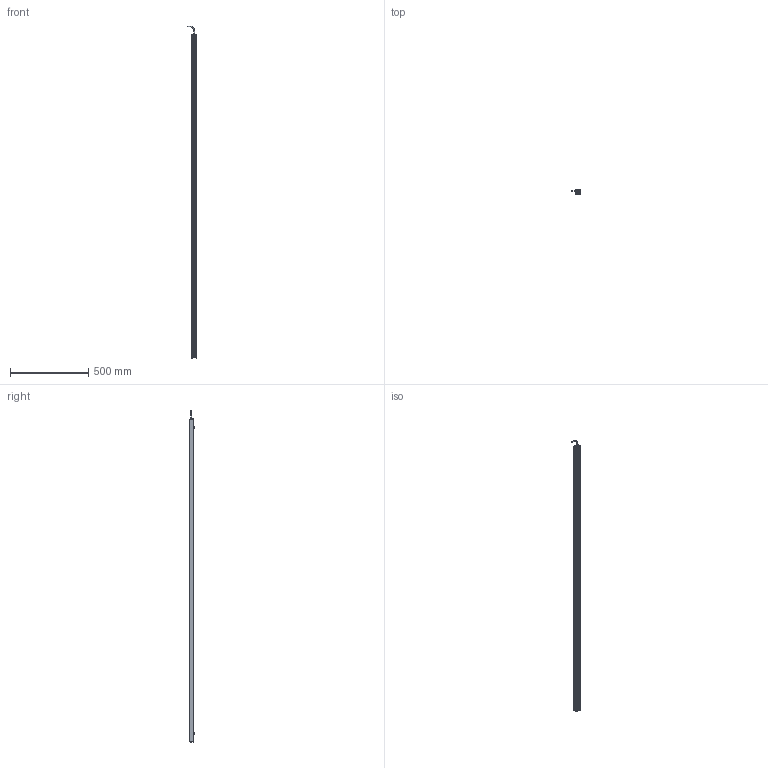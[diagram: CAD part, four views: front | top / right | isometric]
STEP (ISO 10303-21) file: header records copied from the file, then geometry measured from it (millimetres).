
FILE_DESCRIPTION (( 'STEP AP214' ), '1' );
FILE_NAME ('AL150XXXX_AL150474.stp', '2021-04-29T15:42:10', ( '' ), ( '' ), 'SwSTEP 2.0', 'SolidWorks 2018', '' );
FILE_SCHEMA (( 'AUTOMOTIVE_DESIGN' ));
Length unit declared in the file: inch
Products named in the file (12): 150-01-005-XXX_150-01-005-474; 093145_93701A253; 092408_TRUNCATED; 150-03-006-XXXX_150-03-006-474; 1157 (no strap); Part2^AL150XXXX; Part1^AL150XXXX; CHM6x8_91460A312; 116-02-006; AL150XXXX_AL150474; HN-M6_90592A016; 116-02-007
Assembly tree (18 placements, depth 2):
  Part2^AL150XXXX
  Part1^AL150XXXX
  AL150XXXX_AL150474
    150-01-005-XXX_150-01-005-474
    116-02-006
    093145_93701A253  x8
    HN-M6_90592A016  x2
    CHM6x8_91460A312  x2
    150-03-006-XXXX_150-03-006-474
    116-02-007
    1157 (no strap)
    092408_TRUNCATED
Bounding box: 60.68 x 33.84 x 2122.86 mm (x, y, z)
Volume: 638775.9 mm3; surface area: 673513.9 mm2
Topology: 26 solids, 26 shells, 1306 faces, 3436 edges, 2127 vertices
Faces by surface type: cylinder 805, cone 249, plane 153, torus 59, bspline 32, sphere 8
Entity records: 18285 total; most frequent: CARTESIAN_POINT 6069, ORIENTED_EDGE 2496, DIRECTION 2311, EDGE_CURVE 1248, AXIS2_PLACEMENT_3D 881, VERTEX_POINT 800, VECTOR 549, LINE 549
